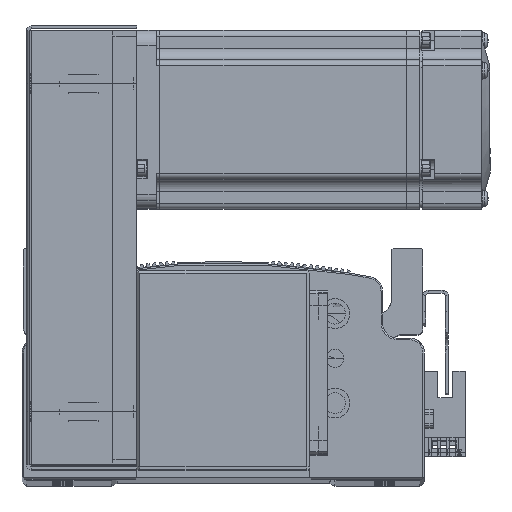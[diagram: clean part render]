
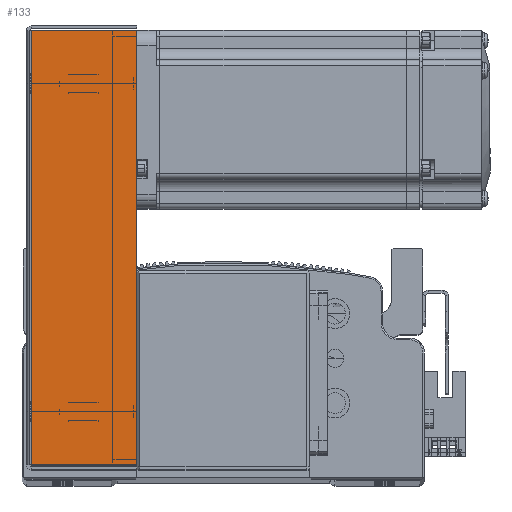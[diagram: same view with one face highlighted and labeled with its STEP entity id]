
A CAD part, top view. The second image highlights one B-rep face of the part: STEP entity #133.
In plain terms, the highlighted planar face has unit normal (0, 0, 1).
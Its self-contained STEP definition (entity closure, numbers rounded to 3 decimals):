
#133 = ADVANCED_FACE ( 'NONE', ( #15675 ), #5645, .F. ) ;
#5614 = CARTESIAN_POINT ( 'NONE',  ( 0., 0., 34.5 ) ) ;
#5617 = DIRECTION ( 'NONE',  ( 0., 0., -1. ) ) ;
#5645 = PLANE ( 'NONE',  #62556 ) ;
#5680 = DIRECTION ( 'NONE',  ( -1., 0., 0. ) ) ;
#14158 = CARTESIAN_POINT ( 'NONE',  ( -72.793, 0.737, 34.5 ) ) ;
#14169 = CARTESIAN_POINT ( 'NONE',  ( 72.793, 36., 34.5 ) ) ;
#14189 = CARTESIAN_POINT ( 'NONE',  ( 72.793, 0.737, 34.5 ) ) ;
#14200 = CARTESIAN_POINT ( 'NONE',  ( -72.793, 36., 34.5 ) ) ;
#15675 = FACE_OUTER_BOUND ( 'NONE', #74408, .T. ) ;
#33966 = CARTESIAN_POINT ( 'NONE',  ( -74.5, 0.737, 34.5 ) ) ;
#33973 = DIRECTION ( 'NONE',  ( -1., 0., 0. ) ) ;
#43346 = VECTOR ( 'NONE', #62194, 1000. ) ;
#43375 = LINE ( 'NONE', #62273, #43346 ) ;
#43397 = LINE ( 'NONE', #62263, #43420 ) ;
#43398 = LINE ( 'NONE', #62261, #43410 ) ;
#43410 = VECTOR ( 'NONE', #62214, 1000. ) ;
#43420 = VECTOR ( 'NONE', #62247, 1000. ) ;
#43898 = VECTOR ( 'NONE', #33973, 1000. ) ;
#43916 = LINE ( 'NONE', #33966, #43898 ) ;
#62194 = DIRECTION ( 'NONE',  ( 0., 1., 0. ) ) ;
#62214 = DIRECTION ( 'NONE',  ( 0., 1., 0. ) ) ;
#62247 = DIRECTION ( 'NONE',  ( -1., 0., 0. ) ) ;
#62261 = CARTESIAN_POINT ( 'NONE',  ( -72.793, 0., 34.5 ) ) ;
#62263 = CARTESIAN_POINT ( 'NONE',  ( 0., 36., 34.5 ) ) ;
#62273 = CARTESIAN_POINT ( 'NONE',  ( 72.793, 0., 34.5 ) ) ;
#62556 = AXIS2_PLACEMENT_3D ( 'NONE', #5614, #5617, #5680 ) ;
#69380 = VERTEX_POINT ( 'NONE', #14169 ) ;
#69389 = VERTEX_POINT ( 'NONE', #14158 ) ;
#69446 = VERTEX_POINT ( 'NONE', #14189 ) ;
#69454 = VERTEX_POINT ( 'NONE', #14200 ) ;
#74408 = EDGE_LOOP ( 'NONE', ( #77765, #77877, #77775, #77885 ) ) ;
#77765 = ORIENTED_EDGE ( 'NONE', *, *, #83439, .F. ) ;
#77775 = ORIENTED_EDGE ( 'NONE', *, *, #83061, .T. ) ;
#77877 = ORIENTED_EDGE ( 'NONE', *, *, #83053, .T. ) ;
#77885 = ORIENTED_EDGE ( 'NONE', *, *, #83059, .F. ) ;
#83053 = EDGE_CURVE ( 'NONE', #69446, #69380, #43375, .T. ) ;
#83059 = EDGE_CURVE ( 'NONE', #69389, #69454, #43398, .T. ) ;
#83061 = EDGE_CURVE ( 'NONE', #69380, #69454, #43397, .T. ) ;
#83439 = EDGE_CURVE ( 'NONE', #69446, #69389, #43916, .T. ) ;
